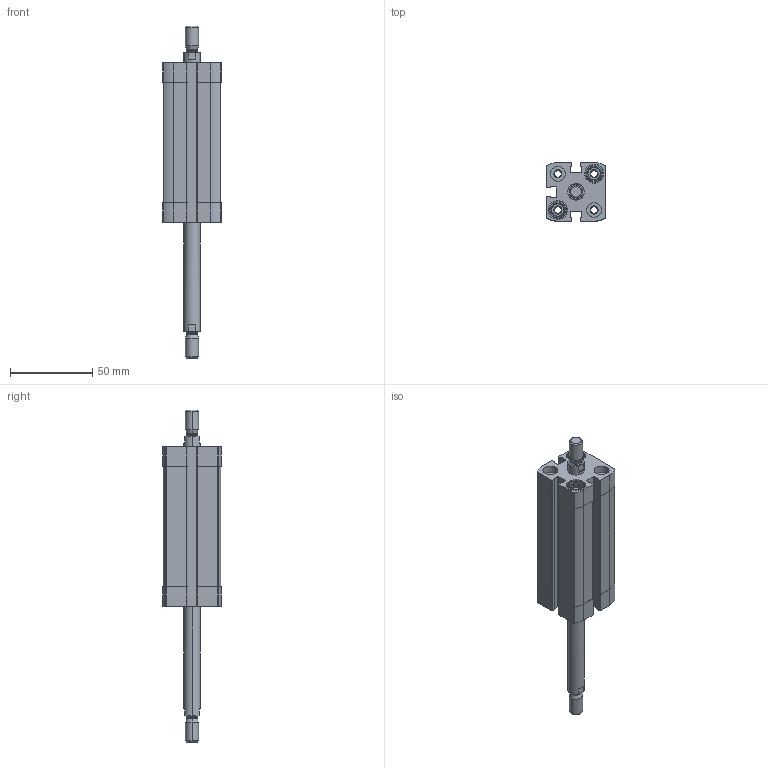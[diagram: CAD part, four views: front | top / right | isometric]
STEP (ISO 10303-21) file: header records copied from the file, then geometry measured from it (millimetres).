
FILE_DESCRIPTION (( 'STEP AP203' ), '1' );
FILE_NAME ('CCN20-60-P.STEP', '2020-06-22T18:41:01', ( '' ), ( '' ), 'SwSTEP 2.0', 'SolidWorks 2019', '' );
FILE_SCHEMA (( 'CONFIG_CONTROL_DESIGN' ));
Length unit declared in the file: millimetre
Products named in the file (1): CCN20-60-P
Bounding box: 35.5 x 35.5 x 201.5 mm (x, y, z)
Volume: 91762.5 mm3; surface area: 39617.2 mm2
Topology: 2 solids, 2 shells, 428 faces, 1120 edges, 728 vertices
Faces by surface type: plane 236, cylinder 140, cone 44, torus 8
Entity records: 13423 total; most frequent: CARTESIAN_POINT 2577, DIRECTION 2314, ORIENTED_EDGE 2240, EDGE_CURVE 1120, AXIS2_PLACEMENT_3D 865, VERTEX_POINT 728, LINE 584, VECTOR 584
